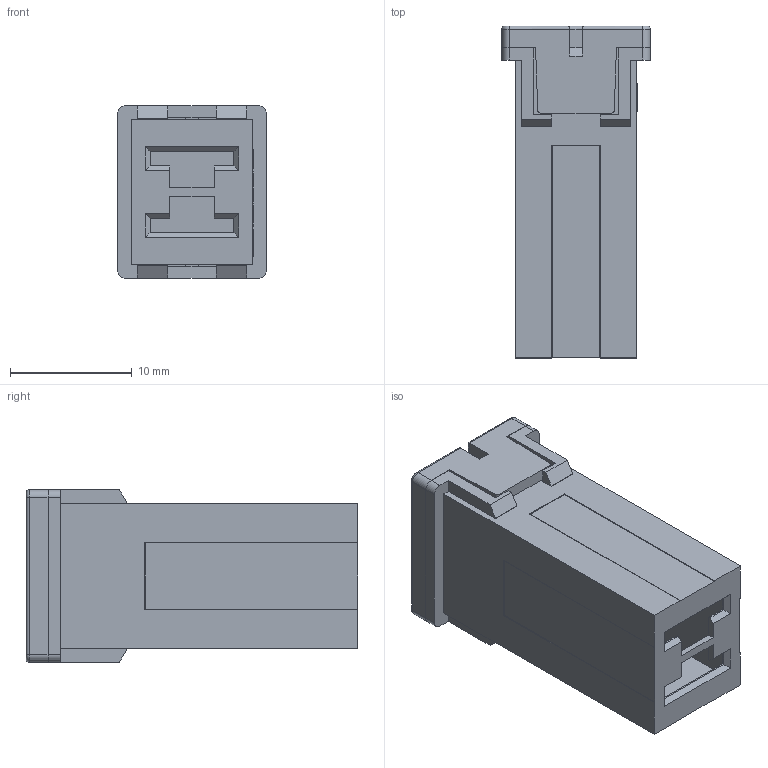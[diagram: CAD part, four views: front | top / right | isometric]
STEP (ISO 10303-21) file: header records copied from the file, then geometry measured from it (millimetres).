
FILE_DESCRIPTION(/* description */ (''),/* implementation_level */ '2;1');
FILE_NAME(/* name */ 'C:\Users\Hani\Desktop\work\FMX\FMX.stp',/* time_stamp */ '2021-10-16T12:33:02-07:00',/* author */ ('Hani'),/* organization */ (''),/* preprocessor_version */ 'ST-DEVELOPER v17',/* originating_system */ 'Autodesk Inventor 2019',/* authorisation */ '');
FILE_SCHEMA (('AUTOMOTIVE_DESIGN { 1 0 10303 214 3 1 1 }'));
Length unit declared in the file: inch
Products named in the file (3): FMX; FMX_1; cover
Assembly tree (2 placements, depth 2):
  FMX
    FMX_1
    cover
Bounding box: 12.2 x 27.3 x 14.2 mm (x, y, z)
Volume: 1000.1 mm3; surface area: 3063.8 mm2
Topology: 2 solids, 2 shells, 291 faces, 794 edges, 516 vertices
Faces by surface type: plane 178, bspline 67, cylinder 42, torus 4
Entity records: 9769 total; most frequent: CARTESIAN_POINT 2691, ORIENTED_EDGE 1588, DIRECTION 1186, EDGE_CURVE 794, LINE 592, VECTOR 592, VERTEX_POINT 516, EDGE_LOOP 308
